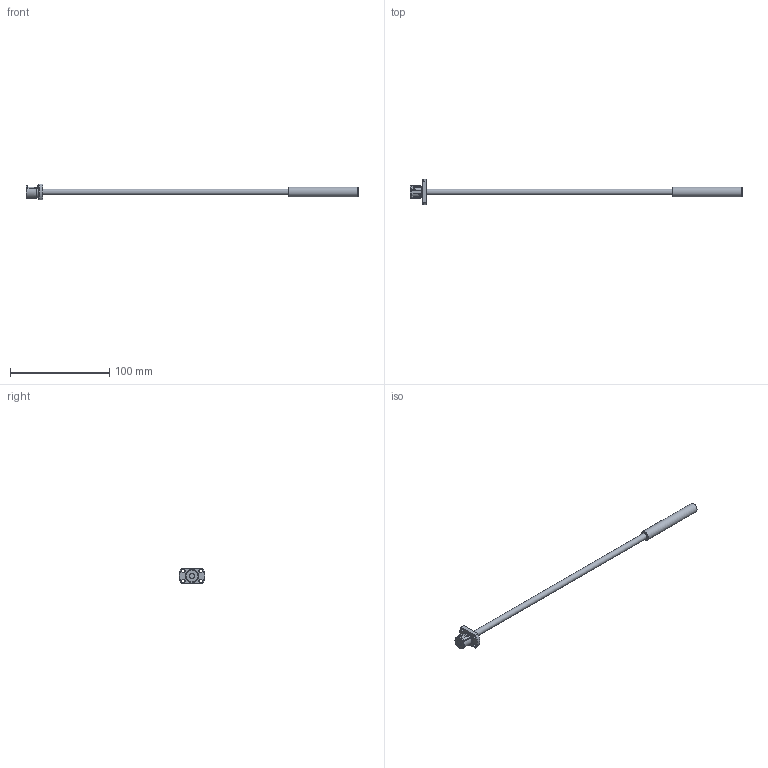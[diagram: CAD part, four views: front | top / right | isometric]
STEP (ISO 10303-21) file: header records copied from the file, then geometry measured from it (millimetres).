
FILE_DESCRIPTION( ( 'STEP AP203' ), '1' );
FILE_NAME( 'e:/temp/worker_106/temp/exporttempdir_5800_153_GzZmH/format_0/SRT0601-261R335C7A0X(0None).stp', '2021-10-19T05:25:59', ( 'License CC BY-ND 4.0' ), ( 'CADENAS' ), ' ', 'PARTsolutions', ' ' );
FILE_SCHEMA( ( 'CONFIG_CONTROL_DESIGN' ) );
Length unit declared in the file: millimetre
Products named in the file (3): SRT0601-261R335C7A0X(0None); _SRT0601-261R335ACt7NoneShaft; _SRT0601Nut
Assembly tree (2 placements, depth 2):
  SRT0601-261R335C7A0X(0None)
    _SRT0601-261R335ACt7NoneShaft
    _SRT0601Nut
Bounding box: 335 x 26 x 16 mm (x, y, z)
Volume: 15134.9 mm3; surface area: 9234.4 mm2
Topology: 2 solids, 2 shells, 50 faces, 130 edges, 86 vertices
Faces by surface type: plane 24, cylinder 15, cone 11
Full cylindrical faces by diameter (mm): 1 x2, 3.4 x4, 6 x2, 9.7 x1, 12.5 x1, 13 x1
Entity records: 1544 total; most frequent: CARTESIAN_POINT 323, DIRECTION 238, ORIENTED_EDGE 202, AXIS2_PLACEMENT_3D 102, EDGE_CURVE 101, EDGE_LOOP 80, VERTEX_POINT 75, FACE_OUTER_BOUND 61
